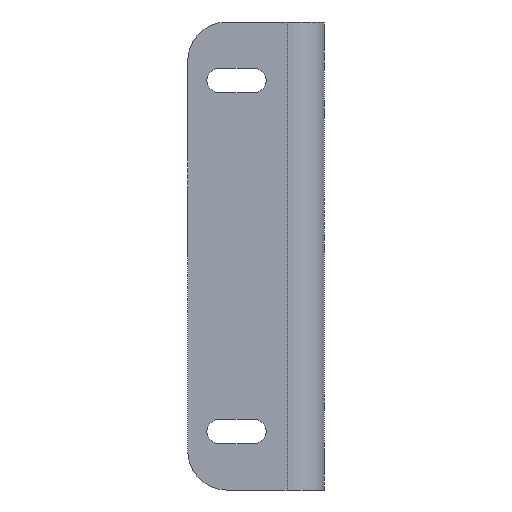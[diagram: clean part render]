
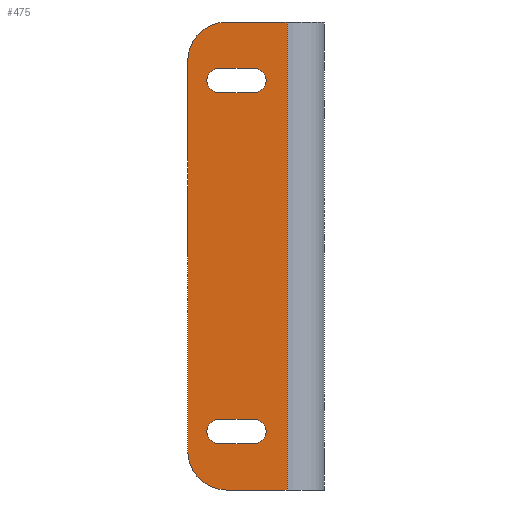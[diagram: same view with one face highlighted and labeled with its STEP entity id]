
A CAD part, left-side view. The second image highlights one B-rep face of the part: STEP entity #475.
In plain terms, the highlighted planar face has unit normal (-1, 0, 0).
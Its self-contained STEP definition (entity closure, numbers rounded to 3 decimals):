
#7 = EDGE_CURVE ( 'NONE', #1347, #245, #1195, .T. ) ;
#25 = EDGE_CURVE ( 'NONE', #34, #1285, #409, .T. ) ;
#29 = DIRECTION ( 'NONE',  ( 0., -1., 0. ) ) ;
#34 = VERTEX_POINT ( 'NONE', #155 ) ;
#42 = DIRECTION ( 'NONE',  ( 0., -1., 0. ) ) ;
#52 = DIRECTION ( 'NONE',  ( 0., -1., 0. ) ) ;
#58 = DIRECTION ( 'NONE',  ( -1., 0., 0. ) ) ;
#63 = VERTEX_POINT ( 'NONE', #150 ) ;
#64 = EDGE_CURVE ( 'NONE', #902, #63, #1407, .T. ) ;
#65 = DIRECTION ( 'NONE',  ( 0., 1., 0. ) ) ;
#69 = VERTEX_POINT ( 'NONE', #844 ) ;
#77 = DIRECTION ( 'NONE',  ( 0., 0., -1. ) ) ;
#92 = DIRECTION ( 'NONE',  ( 0., -1., 0. ) ) ;
#107 = VECTOR ( 'NONE', #52, 1000. ) ;
#134 = CARTESIAN_POINT ( 'NONE',  ( -65., 13., -41.9 ) ) ;
#139 = VECTOR ( 'NONE', #691, 1000. ) ;
#150 = CARTESIAN_POINT ( 'NONE',  ( -65., 13., 48.1 ) ) ;
#155 = CARTESIAN_POINT ( 'NONE',  ( -65., 20., -60. ) ) ;
#177 = EDGE_CURVE ( 'NONE', #236, #660, #321, .T. ) ;
#179 = EDGE_LOOP ( 'NONE', ( #960, #296, #1444, #734, #1121 ) ) ;
#197 = DIRECTION ( 'NONE',  ( 0., -1., 0. ) ) ;
#201 = EDGE_CURVE ( 'NONE', #935, #1285, #241, .T. ) ;
#217 = EDGE_CURVE ( 'NONE', #660, #1367, #1427, .T. ) ;
#231 = EDGE_CURVE ( 'NONE', #1132, #620, #258, .T. ) ;
#236 = VERTEX_POINT ( 'NONE', #1313 ) ;
#241 = LINE ( 'NONE', #422, #811 ) ;
#245 = VERTEX_POINT ( 'NONE', #299 ) ;
#249 = EDGE_CURVE ( 'NONE', #245, #365, #993, .T. ) ;
#258 = CIRCLE ( 'NONE', #1434, 3.1 ) ;
#286 = CARTESIAN_POINT ( 'NONE',  ( -65., 0., 60. ) ) ;
#293 = DIRECTION ( 'NONE',  ( 0., 0., -1. ) ) ;
#296 = ORIENTED_EDGE ( 'NONE', *, *, #64, .F. ) ;
#299 = CARTESIAN_POINT ( 'NONE',  ( -65., 22., -48.1 ) ) ;
#302 = ORIENTED_EDGE ( 'NONE', *, *, #217, .T. ) ;
#304 = CARTESIAN_POINT ( 'NONE',  ( -65., 20., 50. ) ) ;
#311 = VERTEX_POINT ( 'NONE', #537 ) ;
#313 = EDGE_CURVE ( 'NONE', #311, #944, #825, .T. ) ;
#320 = DIRECTION ( 'NONE',  ( -1., 0., 0. ) ) ;
#321 = CIRCLE ( 'NONE', #1229, 10. ) ;
#327 = CARTESIAN_POINT ( 'NONE',  ( -65., 30., 50. ) ) ;
#343 = AXIS2_PLACEMENT_3D ( 'NONE', #635, #410, #404 ) ;
#357 = CARTESIAN_POINT ( 'NONE',  ( -65., 4.55, -60. ) ) ;
#365 = VERTEX_POINT ( 'NONE', #987 ) ;
#404 = DIRECTION ( 'NONE',  ( 0., 1., 0. ) ) ;
#409 = LINE ( 'NONE', #1287, #107 ) ;
#410 = DIRECTION ( 'NONE',  ( -1., 0., 0. ) ) ;
#422 = CARTESIAN_POINT ( 'NONE',  ( -65., 4.55, -60. ) ) ;
#431 = EDGE_CURVE ( 'NONE', #944, #1347, #986, .T. ) ;
#465 = ORIENTED_EDGE ( 'NONE', *, *, #25, .T. ) ;
#475 = ADVANCED_FACE ( 'NONE', ( #1454, #875, #1302 ), #1261, .F. ) ;
#477 = CIRCLE ( 'NONE', #1260, 3.1 ) ;
#479 = DIRECTION ( 'NONE',  ( 0., 1., 0. ) ) ;
#513 = AXIS2_PLACEMENT_3D ( 'NONE', #1282, #954, #724 ) ;
#537 = CARTESIAN_POINT ( 'NONE',  ( -65., 9.9, -45. ) ) ;
#547 = AXIS2_PLACEMENT_3D ( 'NONE', #771, #320, #197 ) ;
#574 = CARTESIAN_POINT ( 'NONE',  ( -65., 22., 48.1 ) ) ;
#591 = DIRECTION ( 'NONE',  ( -1., 0., 0. ) ) ;
#600 = DIRECTION ( 'NONE',  ( 0., 1., 0. ) ) ;
#604 = CARTESIAN_POINT ( 'NONE',  ( -65., 22., 41.9 ) ) ;
#620 = VERTEX_POINT ( 'NONE', #604 ) ;
#627 = ORIENTED_EDGE ( 'NONE', *, *, #7, .F. ) ;
#632 = ORIENTED_EDGE ( 'NONE', *, *, #659, .F. ) ;
#635 = CARTESIAN_POINT ( 'NONE',  ( -65., 20., -50. ) ) ;
#651 = DIRECTION ( 'NONE',  ( -1., 0., 0. ) ) ;
#659 = EDGE_CURVE ( 'NONE', #365, #311, #748, .T. ) ;
#660 = VERTEX_POINT ( 'NONE', #327 ) ;
#691 = DIRECTION ( 'NONE',  ( 0., 1., 0. ) ) ;
#708 = DIRECTION ( 'NONE',  ( -1., 0., 0. ) ) ;
#715 = CARTESIAN_POINT ( 'NONE',  ( -65., 13., 45. ) ) ;
#724 = DIRECTION ( 'NONE',  ( 0., -1., 0. ) ) ;
#730 = EDGE_CURVE ( 'NONE', #935, #236, #1389, .T. ) ;
#734 = ORIENTED_EDGE ( 'NONE', *, *, #999, .F. ) ;
#748 = CIRCLE ( 'NONE', #547, 3.1 ) ;
#755 = CARTESIAN_POINT ( 'NONE',  ( -65., 13., -48.1 ) ) ;
#771 = CARTESIAN_POINT ( 'NONE',  ( -65., 13., -45. ) ) ;
#784 = ORIENTED_EDGE ( 'NONE', *, *, #249, .F. ) ;
#811 = VECTOR ( 'NONE', #77, 1000. ) ;
#820 = VECTOR ( 'NONE', #92, 1000. ) ;
#825 = CIRCLE ( 'NONE', #1445, 3.1 ) ;
#844 = CARTESIAN_POINT ( 'NONE',  ( -65., 13., 41.9 ) ) ;
#851 = EDGE_LOOP ( 'NONE', ( #1373, #1024, #632, #784, #627 ) ) ;
#872 = DIRECTION ( 'NONE',  ( 0., -1., 0. ) ) ;
#875 = FACE_BOUND ( 'NONE', #179, .T. ) ;
#880 = DIRECTION ( 'NONE',  ( 0., -1., 0. ) ) ;
#887 = EDGE_CURVE ( 'NONE', #1367, #34, #896, .T. ) ;
#896 = CIRCLE ( 'NONE', #343, 10. ) ;
#901 = VECTOR ( 'NONE', #872, 1000. ) ;
#902 = VERTEX_POINT ( 'NONE', #1314 ) ;
#917 = ORIENTED_EDGE ( 'NONE', *, *, #201, .F. ) ;
#935 = VERTEX_POINT ( 'NONE', #985 ) ;
#944 = VERTEX_POINT ( 'NONE', #1216 ) ;
#954 = DIRECTION ( 'NONE',  ( -1., 0., 0. ) ) ;
#960 = ORIENTED_EDGE ( 'NONE', *, *, #1199, .F. ) ;
#971 = VECTOR ( 'NONE', #1205, 1000. ) ;
#979 = DIRECTION ( 'NONE',  ( -1., 0., 0. ) ) ;
#984 = CARTESIAN_POINT ( 'NONE',  ( -65., 22., 45. ) ) ;
#985 = CARTESIAN_POINT ( 'NONE',  ( -65., 4.55, 60. ) ) ;
#986 = LINE ( 'NONE', #134, #1218 ) ;
#987 = CARTESIAN_POINT ( 'NONE',  ( -65., 13., -48.1 ) ) ;
#993 = LINE ( 'NONE', #755, #901 ) ;
#999 = EDGE_CURVE ( 'NONE', #620, #69, #1438, .T. ) ;
#1023 = ORIENTED_EDGE ( 'NONE', *, *, #177, .T. ) ;
#1024 = ORIENTED_EDGE ( 'NONE', *, *, #313, .F. ) ;
#1059 = CARTESIAN_POINT ( 'NONE',  ( -65., 22., -41.9 ) ) ;
#1106 = ORIENTED_EDGE ( 'NONE', *, *, #887, .T. ) ;
#1120 = CARTESIAN_POINT ( 'NONE',  ( -65., 13., -45. ) ) ;
#1121 = ORIENTED_EDGE ( 'NONE', *, *, #231, .F. ) ;
#1132 = VERTEX_POINT ( 'NONE', #574 ) ;
#1143 = AXIS2_PLACEMENT_3D ( 'NONE', #1265, #591, #29 ) ;
#1156 = DIRECTION ( 'NONE',  ( 1., 0., 0. ) ) ;
#1183 = CARTESIAN_POINT ( 'NONE',  ( -65., 30., -50. ) ) ;
#1195 = CIRCLE ( 'NONE', #1143, 3.1 ) ;
#1199 = EDGE_CURVE ( 'NONE', #63, #1132, #1293, .T. ) ;
#1201 = CARTESIAN_POINT ( 'NONE',  ( -65., 30., 0. ) ) ;
#1205 = DIRECTION ( 'NONE',  ( 0., 1., 0. ) ) ;
#1215 = EDGE_LOOP ( 'NONE', ( #302, #1106, #465, #917, #1241, #1023 ) ) ;
#1216 = CARTESIAN_POINT ( 'NONE',  ( -65., 13., -41.9 ) ) ;
#1218 = VECTOR ( 'NONE', #600, 1000. ) ;
#1229 = AXIS2_PLACEMENT_3D ( 'NONE', #304, #979, #65 ) ;
#1241 = ORIENTED_EDGE ( 'NONE', *, *, #730, .T. ) ;
#1260 = AXIS2_PLACEMENT_3D ( 'NONE', #715, #708, #42 ) ;
#1261 = PLANE ( 'NONE',  #1299 ) ;
#1265 = CARTESIAN_POINT ( 'NONE',  ( -65., 22., -45. ) ) ;
#1282 = CARTESIAN_POINT ( 'NONE',  ( -65., 13., 45. ) ) ;
#1285 = VERTEX_POINT ( 'NONE', #357 ) ;
#1287 = CARTESIAN_POINT ( 'NONE',  ( -65., 0., -60. ) ) ;
#1293 = LINE ( 'NONE', #1391, #139 ) ;
#1299 = AXIS2_PLACEMENT_3D ( 'NONE', #1379, #1156, #479 ) ;
#1302 = FACE_OUTER_BOUND ( 'NONE', #1215, .T. ) ;
#1313 = CARTESIAN_POINT ( 'NONE',  ( -65., 20., 60. ) ) ;
#1314 = CARTESIAN_POINT ( 'NONE',  ( -65., 9.9, 45. ) ) ;
#1320 = DIRECTION ( 'NONE',  ( 0., -1., 0. ) ) ;
#1339 = CARTESIAN_POINT ( 'NONE',  ( -65., 13., 41.9 ) ) ;
#1347 = VERTEX_POINT ( 'NONE', #1059 ) ;
#1367 = VERTEX_POINT ( 'NONE', #1183 ) ;
#1373 = ORIENTED_EDGE ( 'NONE', *, *, #431, .F. ) ;
#1377 = VECTOR ( 'NONE', #293, 1000. ) ;
#1379 = CARTESIAN_POINT ( 'NONE',  ( -65., 0., 0. ) ) ;
#1389 = LINE ( 'NONE', #286, #971 ) ;
#1391 = CARTESIAN_POINT ( 'NONE',  ( -65., 13., 48.1 ) ) ;
#1396 = EDGE_CURVE ( 'NONE', #69, #902, #477, .T. ) ;
#1407 = CIRCLE ( 'NONE', #513, 3.1 ) ;
#1427 = LINE ( 'NONE', #1201, #1377 ) ;
#1434 = AXIS2_PLACEMENT_3D ( 'NONE', #984, #58, #1320 ) ;
#1438 = LINE ( 'NONE', #1339, #820 ) ;
#1444 = ORIENTED_EDGE ( 'NONE', *, *, #1396, .F. ) ;
#1445 = AXIS2_PLACEMENT_3D ( 'NONE', #1120, #651, #880 ) ;
#1454 = FACE_BOUND ( 'NONE', #851, .T. ) ;
